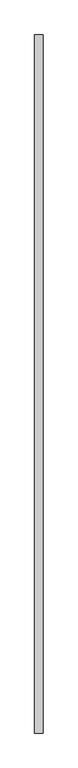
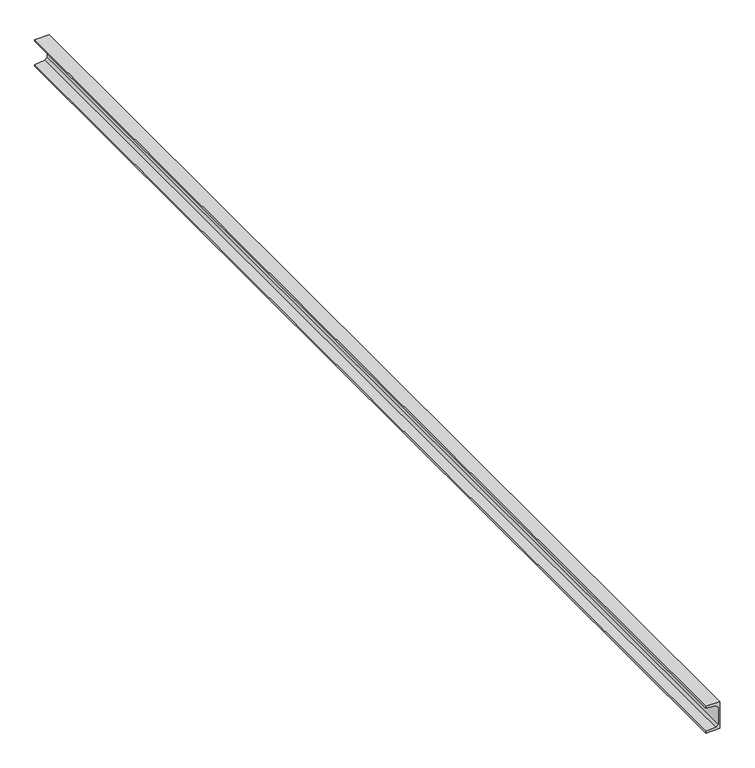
"""IFC4 building model written with IfcOpenShell, lengths in millimetres: beam geometry, Murailli?re 162657 : Murailli?re 162657."""

from ifc_helpers import new_model, si_unit, frame, origin, place, context, project, spatial, polyline, outline, extrude, source, transform, mapped, element, save


def beam_f5f7d51a(model_context):
    return source(origin(), model_context, "Body", "SweptSolid", [
        extrude(outline(polyline([(7414.445, 15383.9999999), (7405.265, 15375.4999999), (7402.425, 15339.9999999), (7395.925, 15339.9999999), (7395.925, 15389.9999999), (7495.925, 15389.9999999), (7495.925, 15339.9999999), (7489.425, 15339.9999999), (7486.585, 15375.4999999), (7477.405, 15383.9999999), (7414.445, 15383.9999999)])), frame((0.0, -8510.0, 0.0), z_axis=(0.0, 1.0, 0.0), x_axis=(0.0, 0.0, 1.0)), (0.0, 0.0, 1.0), 4120.0),
    ])


if __name__ == "__main__":
    model = new_model("IFC4")
    model_context = context("Model", 3, world=origin())
    ifc_project = project(units=[si_unit("LENGTHUNIT", "METRE", prefix="MILLI")], contexts=[model_context])
    site = spatial("IfcSite", under=ifc_project)
    building = spatial("IfcBuilding", under=site)
    placement = place(None, origin())
    beam_shape = beam_f5f7d51a(model_context)
    element("IfcBeam", 1, ObjectType="Murailli?re 162657 : Murailli?re 162657", at=placement, inside=building, context=model_context, shape_type="MappedRepresentation", body=[
        mapped(beam_shape, transform((0.0, 0.0, 0.0), x_axis=(1.0, 0.0, 0.0), y_axis=(0.0, 1.0, 0.0), z_axis=(0.0, 0.0, 1.0))),
    ])
    save(model, "model.ifc")
